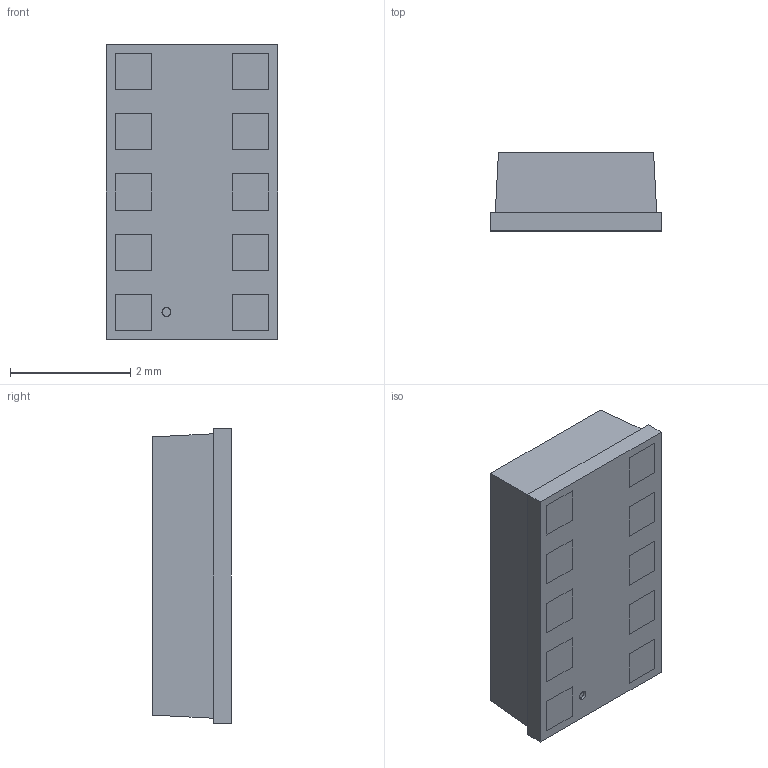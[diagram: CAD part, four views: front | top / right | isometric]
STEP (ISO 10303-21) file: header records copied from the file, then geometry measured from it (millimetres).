
FILE_DESCRIPTION (( 'STEP AP214' ), '1' );
FILE_NAME ('SI1145-M01-GMR.STEP', '2020-01-14T08:54:30', ( '' ), ( '' ), 'SwSTEP 2.0', 'SolidWorks 2017', '' );
FILE_SCHEMA (( 'AUTOMOTIVE_DESIGN' ));
Length unit declared in the file: millimetre
Products named in the file (1): SI1145-M01-GMR
Bounding box: 2.85 x 1.3 x 4.9 mm (x, y, z)
Volume: 16.5 mm3; surface area: 63.9 mm2
Topology: 14 solids, 14 shells, 145 faces, 306 edges, 204 vertices
Faces by surface type: plane 131, cylinder 12, cone 2
Entity records: 3979 total; most frequent: CARTESIAN_POINT 656, DIRECTION 626, ORIENTED_EDGE 612, EDGE_CURVE 306, VECTOR 278, LINE 278, VERTEX_POINT 204, AXIS2_PLACEMENT_3D 174
